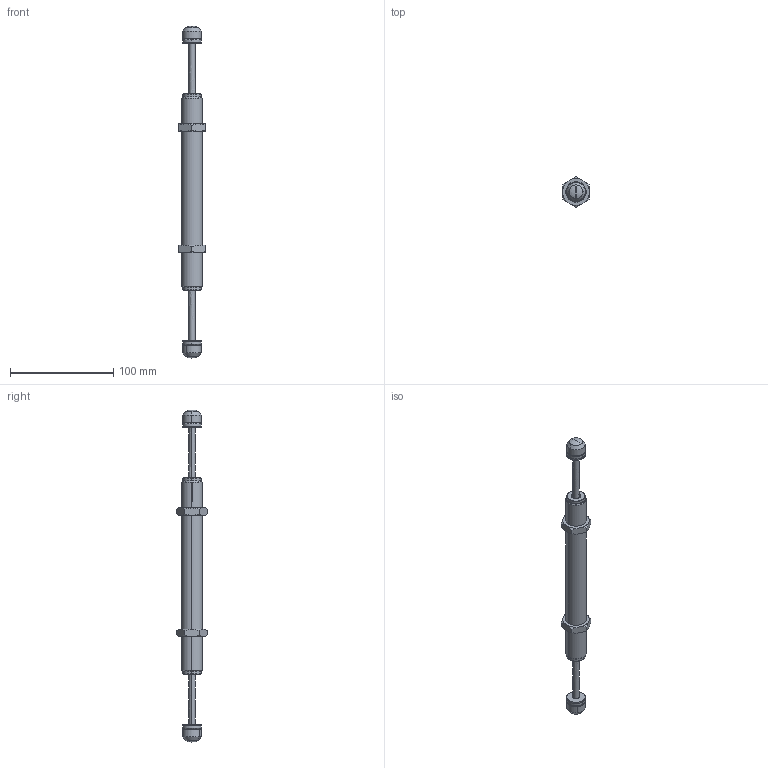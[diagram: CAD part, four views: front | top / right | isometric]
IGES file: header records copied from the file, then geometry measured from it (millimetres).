
Start section: SolidWorks IGES file using analytic representation for surfaces
Global section: file name: D:\IGS跡宒\ACD2050-2L(QY).IGS,1; native system: 5HSolidWorks 2013; preprocessor: SolidWorks 2013; author: Administrator; date: 160920.094340; units: inch
Bounding box: 26 x 30.02 x 321.6 mm (x, y, z)
Surface area: 22470.2 mm2 (no closed solid volume)
Topology: 0 solids, 0 shells, 116 faces, 2160 edges, 2158 vertices
Faces by surface type: revolution 86, bspline 30
